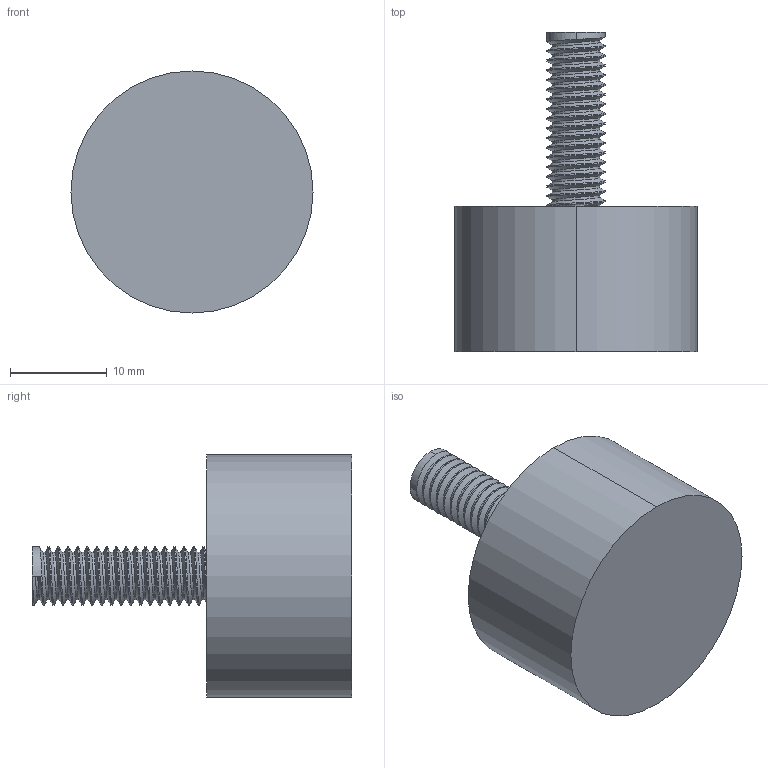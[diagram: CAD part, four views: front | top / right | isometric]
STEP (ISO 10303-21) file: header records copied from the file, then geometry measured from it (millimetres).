
FILE_DESCRIPTION (( 'STEP AP214' ), '1' );
FILE_NAME ('1.4040 Pysäytin 25 M6.STEP', '2025-09-15T07:28:41', ( '' ), ( '' ), 'SwSTEP 2.0', 'SolidWorks 2025', '' );
FILE_SCHEMA (( 'AUTOMOTIVE_DESIGN' ));
Length unit declared in the file: millimetre
Products named in the file (1): 1.4040 Pysäytin 25 M6
Bounding box: 25 x 33 x 25 mm (x, y, z)
Volume: 7779.6 mm3; surface area: 2684.2 mm2
Topology: 1 solids, 2 shells, 57 faces, 150 edges, 99 vertices
Faces by surface type: cylinder 44, plane 7, bspline 6
Entity records: 6828 total; most frequent: CARTESIAN_POINT 5025, ORIENTED_EDGE 300, DIRECTION 184, EDGE_CURVE 150, VERTEX_POINT 99, AXIS2_PLACEMENT_3D 67, EDGE_LOOP 59, UNCERTAINTY_MEASURE_WITH_UNIT 59
